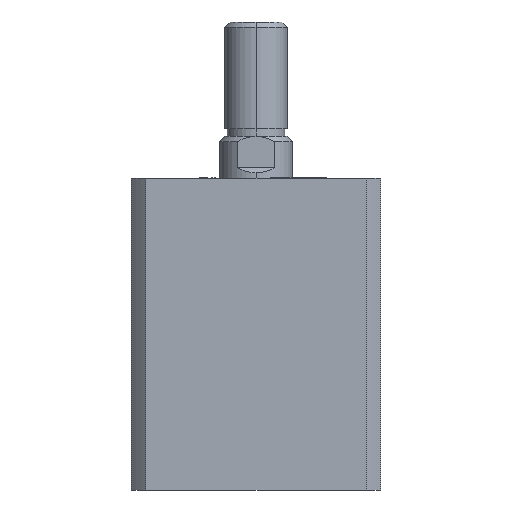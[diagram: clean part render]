
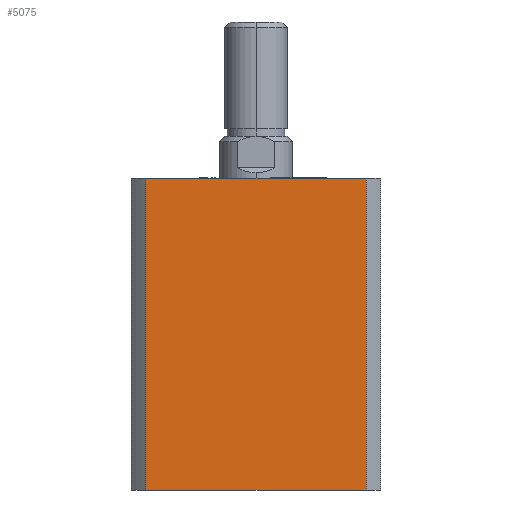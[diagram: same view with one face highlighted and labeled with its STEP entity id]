
A CAD part, left-side view. The second image highlights one B-rep face of the part: STEP entity #5075.
In plain terms, the highlighted planar face has unit normal (-1, 0, 0).
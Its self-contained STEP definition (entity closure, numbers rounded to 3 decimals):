
#140 = CARTESIAN_POINT ( 'NONE',  ( -24., 21.166, 0. ) ) ;
#163 = CARTESIAN_POINT ( 'NONE',  ( -24., -21.166, 0. ) ) ;
#284 = CARTESIAN_POINT ( 'NONE',  ( -24., 21.166, 60. ) ) ;
#418 = CARTESIAN_POINT ( 'NONE',  ( -24., 0., 60. ) ) ;
#419 = DIRECTION ( 'NONE',  ( 0., -1., 0. ) ) ;
#568 = CARTESIAN_POINT ( 'NONE',  ( -24., 0., 0. ) ) ;
#569 = DIRECTION ( 'NONE',  ( 0., -1., 0. ) ) ;
#573 = CARTESIAN_POINT ( 'NONE',  ( -24., 21.166, 60. ) ) ;
#574 = CARTESIAN_POINT ( 'NONE',  ( -24., -21.166, 60. ) ) ;
#579 = DIRECTION ( 'NONE',  ( 0., 0., -1. ) ) ;
#581 = DIRECTION ( 'NONE',  ( 0., 0., -1. ) ) ;
#812 = CARTESIAN_POINT ( 'NONE',  ( -24., 0., 60. ) ) ;
#814 = PLANE ( 'NONE',  #4471 ) ;
#817 = DIRECTION ( 'NONE',  ( 1., 0., 0. ) ) ;
#818 = DIRECTION ( 'NONE',  ( 0., 0., -1. ) ) ;
#1279 = VERTEX_POINT ( 'NONE', #4329 ) ;
#1748 = LINE ( 'NONE', #418, #1750 ) ;
#1750 = VECTOR ( 'NONE', #419, 1000. ) ;
#1761 = LINE ( 'NONE', #574, #1786 ) ;
#1782 = LINE ( 'NONE', #568, #1784 ) ;
#1783 = LINE ( 'NONE', #573, #1788 ) ;
#1784 = VECTOR ( 'NONE', #569, 1000. ) ;
#1786 = VECTOR ( 'NONE', #579, 1000. ) ;
#1788 = VECTOR ( 'NONE', #581, 1000. ) ;
#1887 = FACE_OUTER_BOUND ( 'NONE', #3583, .T. ) ;
#2822 = VERTEX_POINT ( 'NONE', #140 ) ;
#2887 = VERTEX_POINT ( 'NONE', #163 ) ;
#3342 = ORIENTED_EDGE ( 'NONE', *, *, #4107, .T. ) ;
#3343 = ORIENTED_EDGE ( 'NONE', *, *, #4076, .F. ) ;
#3344 = ORIENTED_EDGE ( 'NONE', *, *, #4106, .F. ) ;
#3345 = ORIENTED_EDGE ( 'NONE', *, *, #4105, .T. ) ;
#3546 = VERTEX_POINT ( 'NONE', #284 ) ;
#3583 = EDGE_LOOP ( 'NONE', ( #3345, #3344, #3343, #3342 ) ) ;
#4076 = EDGE_CURVE ( 'NONE', #3546, #1279, #1748, .T. ) ;
#4105 = EDGE_CURVE ( 'NONE', #2822, #2887, #1782, .T. ) ;
#4106 = EDGE_CURVE ( 'NONE', #1279, #2887, #1761, .T. ) ;
#4107 = EDGE_CURVE ( 'NONE', #3546, #2822, #1783, .T. ) ;
#4329 = CARTESIAN_POINT ( 'NONE',  ( -24., -21.166, 60. ) ) ;
#4471 = AXIS2_PLACEMENT_3D ( 'NONE', #812, #817, #818 ) ;
#5075 = ADVANCED_FACE ( 'NONE', ( #1887 ), #814, .F. ) ;
